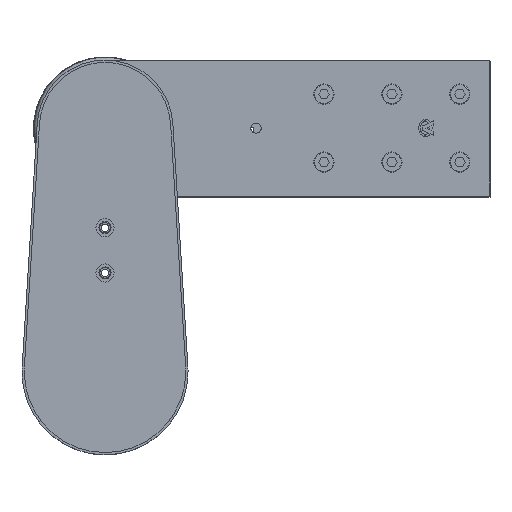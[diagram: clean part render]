
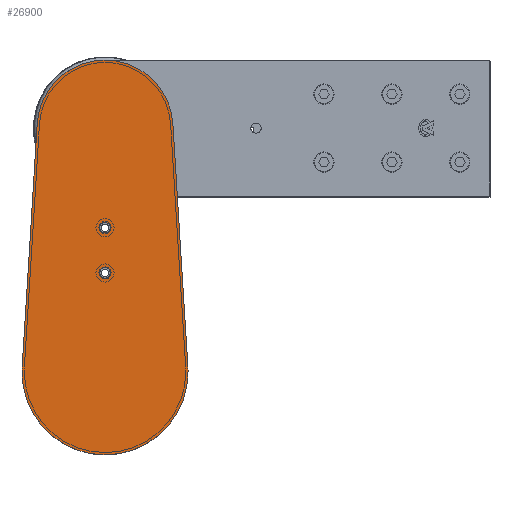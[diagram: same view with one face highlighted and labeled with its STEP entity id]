
A CAD part, top view. The second image highlights one B-rep face of the part: STEP entity #26900.
In plain terms, the highlighted planar face has unit normal (0, 0, 1) as drawn and (0, 0, -1) by its records, which use the part's own axes.
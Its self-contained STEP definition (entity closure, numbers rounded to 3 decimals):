
#318 = EDGE_LOOP ( 'NONE', ( #20320, #21841, #27333, #39448, #41629, #2370 ) ) ;
#607 = CARTESIAN_POINT ( 'NONE',  ( -55., 0., 0. ) ) ;
#1086 = EDGE_CURVE ( 'NONE', #2959, #6336, #33483, .T. ) ;
#1561 = EDGE_CURVE ( 'NONE', #38710, #5368, #8785, .T. ) ;
#1887 = CARTESIAN_POINT ( 'NONE',  ( -3.5, 95.5, 0. ) ) ;
#2291 = AXIS2_PLACEMENT_3D ( 'NONE', #19138, #41615, #22345 ) ;
#2370 = ORIENTED_EDGE ( 'NONE', *, *, #1086, .F. ) ;
#2959 = VERTEX_POINT ( 'NONE', #21456 ) ;
#3298 = AXIS2_PLACEMENT_3D ( 'NONE', #8145, #30661, #11412 ) ;
#3728 = PLANE ( 'NONE',  #24818 ) ;
#4378 = FACE_BOUND ( 'NONE', #32438, .T. ) ;
#4718 = EDGE_CURVE ( 'NONE', #31707, #23096, #28423, .T. ) ;
#5368 = VERTEX_POINT ( 'NONE', #37780 ) ;
#5395 = FACE_OUTER_BOUND ( 'NONE', #318, .T. ) ;
#6336 = VERTEX_POINT ( 'NONE', #26321 ) ;
#6345 = CARTESIAN_POINT ( 'NONE',  ( 55., 0., 0. ) ) ;
#6640 = CARTESIAN_POINT ( 'NONE',  ( 0., 0., 0. ) ) ;
#6793 = EDGE_CURVE ( 'NONE', #21812, #33864, #12169, .T. ) ;
#6979 = DIRECTION ( 'NONE',  ( 1., 0., 0. ) ) ;
#7813 = VECTOR ( 'NONE', #30894, 1000. ) ;
#8145 = CARTESIAN_POINT ( 'NONE',  ( 0., 65.5, 0. ) ) ;
#8385 = CARTESIAN_POINT ( 'NONE',  ( -44.914, 164.286, 0. ) ) ;
#8785 = LINE ( 'NONE', #22626, #17327 ) ;
#9429 = VERTEX_POINT ( 'NONE', #1887 ) ;
#9859 = DIRECTION ( 'NONE',  ( 1., 0., 0. ) ) ;
#10102 = CARTESIAN_POINT ( 'NONE',  ( 0., 0., 0. ) ) ;
#11412 = DIRECTION ( 'NONE',  ( 1., 0., 0. ) ) ;
#12169 = CIRCLE ( 'NONE', #24878, 55. ) ;
#12286 = CIRCLE ( 'NONE', #12495, 3.5 ) ;
#12495 = AXIS2_PLACEMENT_3D ( 'NONE', #15632, #38105, #18866 ) ;
#12971 = DIRECTION ( 'NONE',  ( -0.062, 0.998, 0. ) ) ;
#13320 = ORIENTED_EDGE ( 'NONE', *, *, #38455, .F. ) ;
#13345 = DIRECTION ( 'NONE',  ( 1., 0., 0. ) ) ;
#13704 = DIRECTION ( 'NONE',  ( 0., 0., 1. ) ) ;
#14915 = DIRECTION ( 'NONE',  ( 0., 0., -1. ) ) ;
#15004 = EDGE_CURVE ( 'NONE', #23096, #31707, #12286, .T. ) ;
#15132 = CARTESIAN_POINT ( 'NONE',  ( 0., 95.5, 0. ) ) ;
#15171 = AXIS2_PLACEMENT_3D ( 'NONE', #10102, #32586, #13345 ) ;
#15632 = CARTESIAN_POINT ( 'NONE',  ( 0., 65.5, 0. ) ) ;
#16830 = EDGE_LOOP ( 'NONE', ( #13320, #38110 ) ) ;
#17327 = VECTOR ( 'NONE', #12971, 1000. ) ;
#18047 = CIRCLE ( 'NONE', #26394, 3.5 ) ;
#18361 = DIRECTION ( 'NONE',  ( 1., 0., 0. ) ) ;
#18866 = DIRECTION ( 'NONE',  ( 1., 0., 0. ) ) ;
#19138 = CARTESIAN_POINT ( 'NONE',  ( 0., 161.5, 0. ) ) ;
#19728 = CARTESIAN_POINT ( 'NONE',  ( 0., 161.5, 0. ) ) ;
#20320 = ORIENTED_EDGE ( 'NONE', *, *, #30431, .F. ) ;
#20462 = FACE_BOUND ( 'NONE', #16830, .T. ) ;
#21089 = ORIENTED_EDGE ( 'NONE', *, *, #15004, .F. ) ;
#21456 = CARTESIAN_POINT ( 'NONE',  ( -44.914, 164.286, 0. ) ) ;
#21812 = VERTEX_POINT ( 'NONE', #607 ) ;
#21841 = ORIENTED_EDGE ( 'NONE', *, *, #1561, .F. ) ;
#22345 = DIRECTION ( 'NONE',  ( 1., 0., 0. ) ) ;
#22626 = CARTESIAN_POINT ( 'NONE',  ( 44.914, 164.286, 0. ) ) ;
#23096 = VERTEX_POINT ( 'NONE', #37207 ) ;
#24151 = CIRCLE ( 'NONE', #36000, 55. ) ;
#24241 = EDGE_CURVE ( 'NONE', #9429, #35683, #18047, .T. ) ;
#24818 = AXIS2_PLACEMENT_3D ( 'NONE', #19728, #26201, #6979 ) ;
#24878 = AXIS2_PLACEMENT_3D ( 'NONE', #6640, #29112, #9859 ) ;
#26201 = DIRECTION ( 'NONE',  ( 0., 0., 1. ) ) ;
#26321 = CARTESIAN_POINT ( 'NONE',  ( -54.894, 3.406, 0. ) ) ;
#26394 = AXIS2_PLACEMENT_3D ( 'NONE', #34199, #14915, #37411 ) ;
#26900 = ADVANCED_FACE ( 'NONE', ( #20462, #4378, #5395 ), #3728, .F. ) ;
#27333 = ORIENTED_EDGE ( 'NONE', *, *, #31743, .F. ) ;
#27805 = CIRCLE ( 'NONE', #33178, 3.5 ) ;
#28189 = EDGE_CURVE ( 'NONE', #6336, #21812, #33476, .T. ) ;
#28423 = CIRCLE ( 'NONE', #3298, 3.5 ) ;
#29112 = DIRECTION ( 'NONE',  ( 0., 0., 1. ) ) ;
#29197 = CARTESIAN_POINT ( 'NONE',  ( 54.894, 3.406, 0. ) ) ;
#30431 = EDGE_CURVE ( 'NONE', #5368, #2959, #38860, .T. ) ;
#30661 = DIRECTION ( 'NONE',  ( 0., 0., -1. ) ) ;
#30894 = DIRECTION ( 'NONE',  ( -0.062, -0.998, 0. ) ) ;
#31707 = VERTEX_POINT ( 'NONE', #35930 ) ;
#31743 = EDGE_CURVE ( 'NONE', #33864, #38710, #24151, .T. ) ;
#32438 = EDGE_LOOP ( 'NONE', ( #21089, #34728 ) ) ;
#32586 = DIRECTION ( 'NONE',  ( 0., 0., 1. ) ) ;
#32958 = CARTESIAN_POINT ( 'NONE',  ( 0., 0., 0. ) ) ;
#33178 = AXIS2_PLACEMENT_3D ( 'NONE', #15132, #37616, #18361 ) ;
#33476 = CIRCLE ( 'NONE', #15171, 55. ) ;
#33483 = LINE ( 'NONE', #8385, #7813 ) ;
#33864 = VERTEX_POINT ( 'NONE', #6345 ) ;
#34199 = CARTESIAN_POINT ( 'NONE',  ( 0., 95.5, 0. ) ) ;
#34728 = ORIENTED_EDGE ( 'NONE', *, *, #4718, .F. ) ;
#35683 = VERTEX_POINT ( 'NONE', #40955 ) ;
#35930 = CARTESIAN_POINT ( 'NONE',  ( -3.5, 65.5, 0. ) ) ;
#36000 = AXIS2_PLACEMENT_3D ( 'NONE', #32958, #13704, #36204 ) ;
#36204 = DIRECTION ( 'NONE',  ( 1., 0., 0. ) ) ;
#37207 = CARTESIAN_POINT ( 'NONE',  ( 3.5, 65.5, 0. ) ) ;
#37411 = DIRECTION ( 'NONE',  ( 1., 0., 0. ) ) ;
#37616 = DIRECTION ( 'NONE',  ( 0., 0., -1. ) ) ;
#37780 = CARTESIAN_POINT ( 'NONE',  ( 44.914, 164.286, 0. ) ) ;
#38105 = DIRECTION ( 'NONE',  ( 0., 0., -1. ) ) ;
#38110 = ORIENTED_EDGE ( 'NONE', *, *, #24241, .F. ) ;
#38455 = EDGE_CURVE ( 'NONE', #35683, #9429, #27805, .T. ) ;
#38710 = VERTEX_POINT ( 'NONE', #29197 ) ;
#38860 = CIRCLE ( 'NONE', #2291, 45. ) ;
#39448 = ORIENTED_EDGE ( 'NONE', *, *, #6793, .F. ) ;
#40955 = CARTESIAN_POINT ( 'NONE',  ( 3.5, 95.5, 0. ) ) ;
#41615 = DIRECTION ( 'NONE',  ( 0., 0., 1. ) ) ;
#41629 = ORIENTED_EDGE ( 'NONE', *, *, #28189, .F. ) ;
